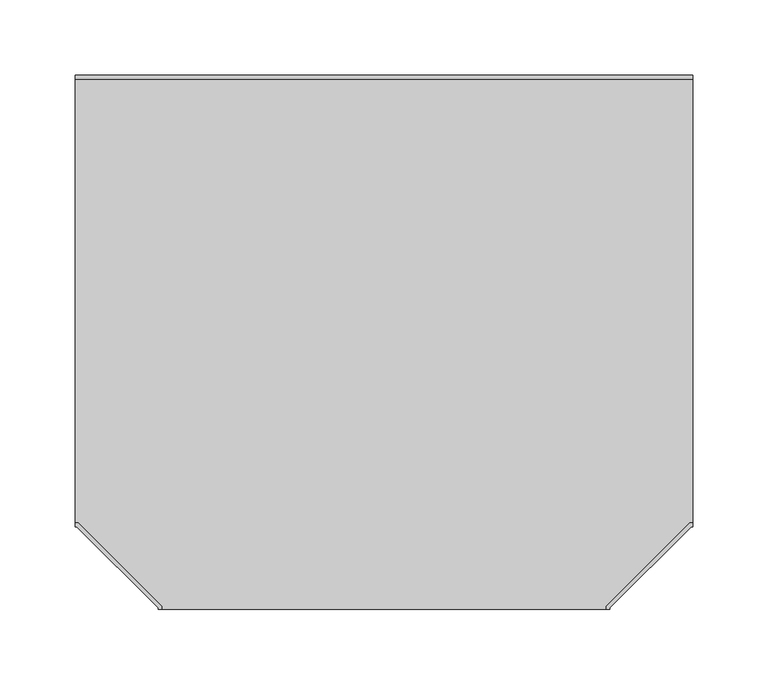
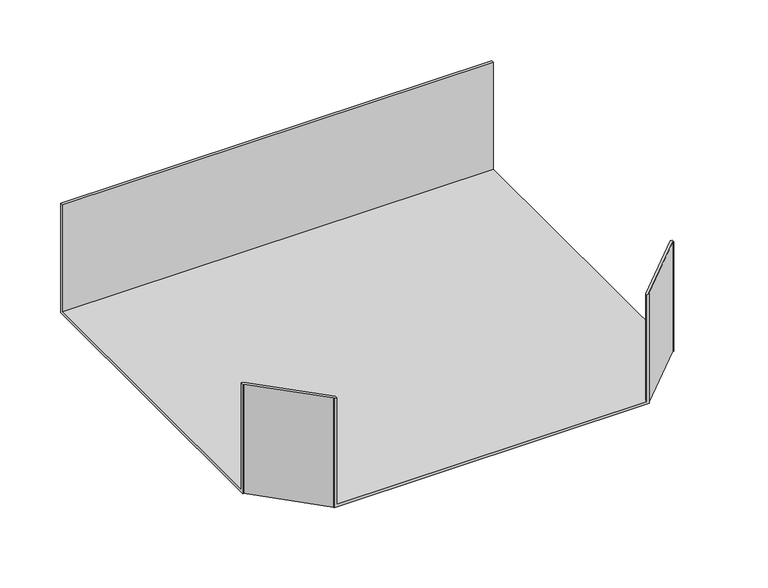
"""IFC4 building model written with IfcOpenShell, lengths in millimetres: cable carrier fitting geometry, BAKS_Mesh horizontal tee : TKSZ_H110."""

from ifc_helpers import new_model, si_unit, origin, place, context, project, spatial, faceted_brep, source, transform, mapped, element, save


def cable_carrier_fitting_5b9ae738(model_context):
    return source(origin(), model_context, "Body", "Brep", [
        faceted_brep([(-147.46, -202.9478976, 55.0), (-202.9478976, -147.46, 55.0), (-205.0, -147.46, 55.0), (-205.0, -150.0, 55.0), (-204.0, -150.0, 55.0), (-150.0, -204.0, 55.0), (-150.0, -205.0, 55.0), (-147.46, -205.0, 55.0), (147.46, -202.9478976, 55.0), (147.46, -205.0, 55.0), (150.0, -205.0, 55.0), (150.0, -204.0, 55.0), (204.0, -150.0, 55.0), (205.0, -150.0, 55.0), (205.0, -147.46, 55.0), (202.9478976, -147.46, 55.0), (205.0, 150.0, 55.0), (-205.0, 150.0, 55.0), (-205.0, 147.46, 55.0), (205.0, 147.46, 55.0), (-150.0, -205.0, -55.0), (-150.0, -204.0, -55.0), (-204.0, -150.0, -55.0), (-205.0, -150.0, -55.0), (-205.0, 150.0, -55.0), (205.0, 150.0, -55.0), (205.0, -150.0, -55.0), (204.0, -150.0, -55.0), (150.0, -204.0, -55.0), (150.0, -205.0, -55.0), (-147.46, -202.9478976, -52.46), (-202.9478976, -147.46, -52.46), (-205.0, -147.46, -52.46), (-205.0, 147.46, -52.46), (-204.0, -150.0, -52.46), (-150.0, -204.0, -52.46), (147.46, -205.0, -52.46), (-147.46, -205.0, -52.46), (150.0, -204.0, -52.46), (204.0, -150.0, -52.46), (205.0, 147.46, -52.46), (205.0, -147.46, -52.46), (202.9478976, -147.46, -52.46), (147.46, -202.9478976, -52.46)], [[[0, 1, 2, 3, 4, 5, 6, 7]], [[8, 9, 10, 11, 12, 13, 14, 15]], [[16, 17, 18, 19]], [[20, 21, 22, 23, 24, 25, 26, 27, 28, 29]], [[1, 0, 30, 31]], [[2, 1, 31, 32]], [[3, 2, 32, 33, 18, 17, 24, 23]], [[4, 3, 23, 22, 34]], [[5, 4, 34, 22, 21, 35]], [[20, 6, 5, 35, 21]], [[7, 6, 20, 29, 10, 9, 36, 37]], [[0, 7, 37, 30]], [[12, 11, 38, 28, 27, 39]], [[26, 13, 12, 39, 27]], [[14, 13, 26, 25, 16, 19, 40, 41]], [[15, 14, 41, 42]], [[8, 15, 42, 43]], [[9, 8, 43, 36]], [[11, 10, 29, 28, 38]], [[24, 17, 16, 25]], [[19, 18, 33, 40]], [[37, 36, 43, 42, 41, 40, 33, 32, 31, 30]]]),
    ])


if __name__ == "__main__":
    model = new_model("IFC4")
    model_context = context("Model", 3, world=origin())
    ifc_project = project(units=[si_unit("LENGTHUNIT", "METRE", prefix="MILLI")], contexts=[model_context])
    site = spatial("IfcSite", under=ifc_project)
    building = spatial("IfcBuilding", under=site)
    placement = place(None, origin())
    cable_carrier_fitting_shape = cable_carrier_fitting_5b9ae738(model_context)
    element("IfcCableCarrierFitting", 1, ObjectType="BAKS_Mesh horizontal tee : TKSZ_H110", at=placement, inside=building, context=model_context, shape_type="MappedRepresentation", body=[
        mapped(cable_carrier_fitting_shape, transform((0.0, 0.0, 0.0), x_axis=(1.0, 0.0, 0.0), y_axis=(0.0, 1.0, 0.0), z_axis=(0.0, 0.0, 1.0))),
    ])
    save(model, "model.ifc")
